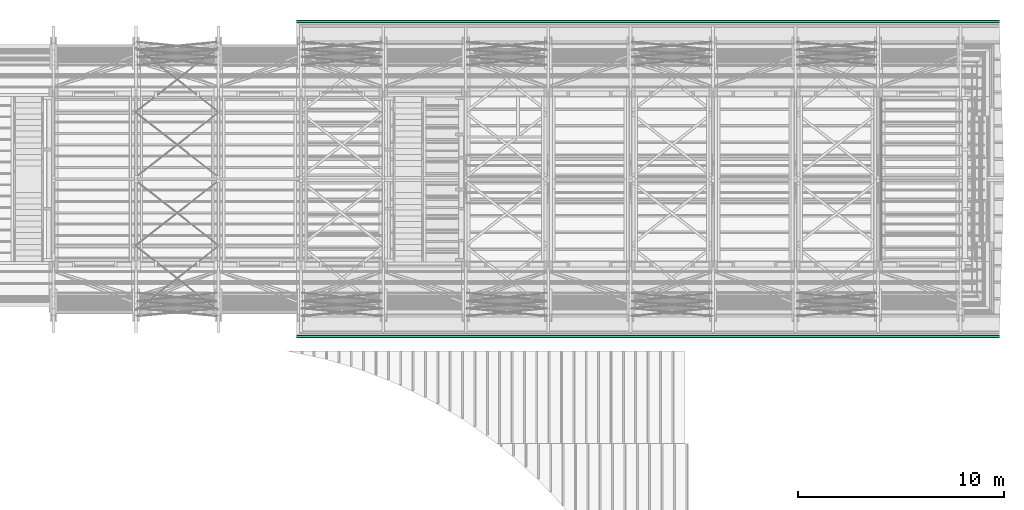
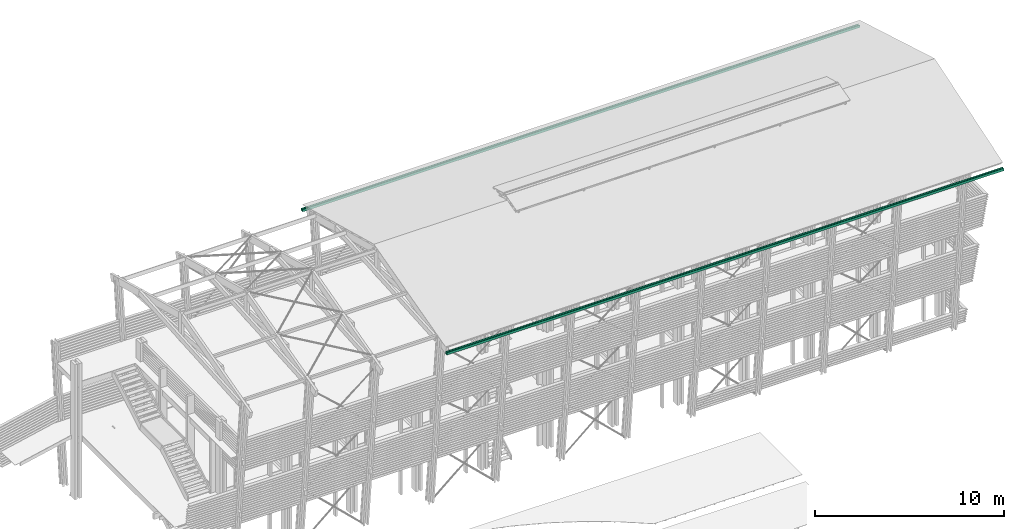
# One storey, part 33 of 48: 2 flow segments.
"""IFC2X3 building model written with IfcOpenShell, lengths in metres."""

from ifc_helpers import new_model, si_unit, direction, frame, origin_with_axes, place, context, subcontext, project, spatial, faceted_brep, material, element, save


model = new_model("IFC2X3")

# Units and contexts
model_context = context("Model", 3, precision=1e-06, world=origin_with_axes(), true_north=direction((0.0, 1.0, 0.0)))
body_context = subcontext(model_context, "Body", "Model", "MODEL_VIEW")
ifc_project = project(units=[si_unit("LENGTHUNIT", "METRE"), si_unit("AREAUNIT", "SQUARE_METRE"), si_unit("VOLUMEUNIT", "CUBIC_METRE"), si_unit("PLANEANGLEUNIT", "RADIAN")], contexts=[model_context])

# Site, building, storey
site_placement = place(None, origin_with_axes())
site = spatial("IfcSite", under=ifc_project, at=site_placement, CompositionType="ELEMENT")
building_placement = place(site_placement, origin_with_axes())
building = spatial("IfcBuilding", under=site, at=building_placement, Name="Building 1", CompositionType="ELEMENT")
storey_placement = place(building_placement, origin_with_axes())
storey = spatial("IfcBuildingStorey", under=building, at=storey_placement, Name="Storey 1", CompositionType="ELEMENT", Elevation=0.0)

# Flow segments
ifc_material = material(Name="Zinc")
for number, where, z_axis, x_axis in (
    (1, (37.2797441, -181.5668846, 11.2328106), (0.0, 0.0, 1.0), (1.0, 0.0, 0.0)),
    (2, (37.2797441, -196.849255, 11.2328106), (0.0, 0.0, 1.0), (1.0, 0.0, 0.0)),
):
    element("IfcFlowSegment", number, at=place(storey_placement, frame(where, z_axis=z_axis, x_axis=x_axis)), inside=storey, material=ifc_material, Name="goutière", context=body_context, shape_type="Brep", body=[
        faceted_brep([(34.0972405, -0.0762, -0.0762), (34.0972405, -0.0762, 0.0762), (0.0, -0.0762, 0.0762), (0.0, -0.0762, -0.0762), (34.0972405, -0.0508, 0.0762), (0.0, -0.0508, 0.0762), (34.0972405, -0.0508, -0.0508), (0.0, -0.0508, -0.0508), (34.0972405, 0.0508, -0.0508), (0.0, 0.0508, -0.0508), (34.0972405, 0.0508, 0.0762), (0.0, 0.0508, 0.0762), (34.0972405, 0.0762, 0.0762), (0.0, 0.0762, 0.0762), (34.0972405, 0.0762, -0.0762), (0.0, 0.0762, -0.0762)], [[[0, 1, 2, 3]], [[1, 4, 5, 2]], [[4, 6, 7, 5]], [[6, 8, 9, 7]], [[8, 10, 11, 9]], [[10, 12, 13, 11]], [[12, 14, 15, 13]], [[14, 0, 3, 15]], [[1, 0, 14, 12, 10, 8, 6, 4]], [[15, 3, 2, 5, 7, 9, 11, 13]]]),
    ])

save(model, "model.ifc")
